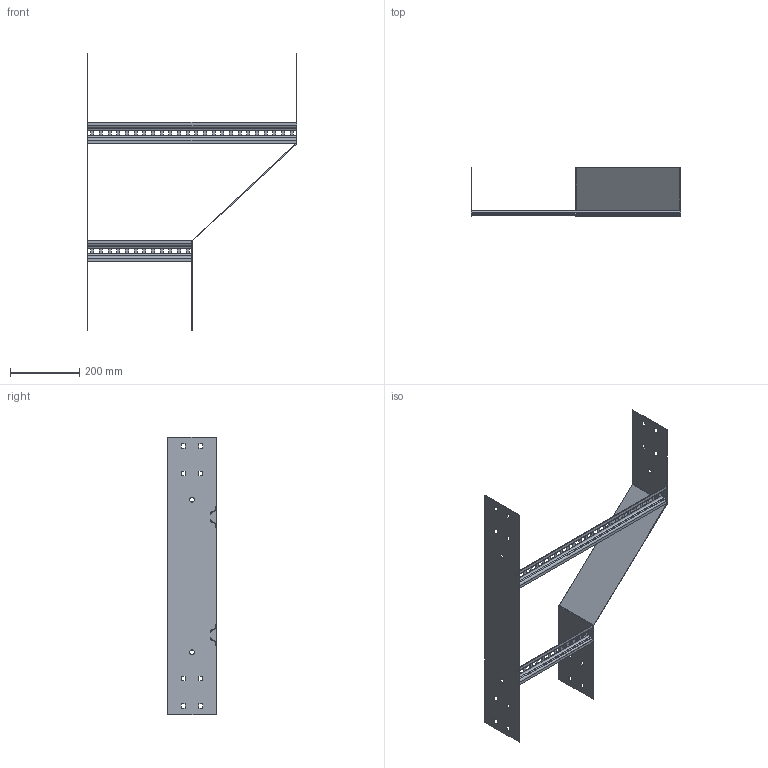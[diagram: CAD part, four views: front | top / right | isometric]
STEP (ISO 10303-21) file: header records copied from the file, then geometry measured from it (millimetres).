
FILE_DESCRIPTION (( 'STEP AP203' ), '1' );
FILE_NAME ('N20C LHR600300.STEP', '2024-08-28T22:25:28', ( '' ), ( '' ), 'SwSTEP 2.0', 'SolidWorks 2023', '' );
FILE_SCHEMA (( 'CONFIG_CONTROL_DESIGN' ));
Length unit declared in the file: millimetre
Products named in the file (5): Ladder Rung_Ladder Rung -  600mm; N20C LHR600300; N20C Tee Back Plate_800; N20C REDUCER_LHR300x600; Ladder Rung_Ladder Rung -  300mm
Assembly tree (4 placements, depth 2):
  N20C LHR600300
    N20C REDUCER_LHR300x600
    Ladder Rung_Ladder Rung -  300mm
    Ladder Rung_Ladder Rung -  600mm
    N20C Tee Back Plate_800
Bounding box: 604 x 140 x 800 mm (x, y, z)
Volume: 574645.2 mm3; surface area: 615195.9 mm2
Topology: 4 solids, 4 shells, 328 faces, 880 edges, 560 vertices
Faces by surface type: plane 300, cylinder 28
Entity records: 10719 total; most frequent: CARTESIAN_POINT 1775, ORIENTED_EDGE 1760, DIRECTION 1606, EDGE_CURVE 880, LINE 824, VECTOR 824, VERTEX_POINT 560, EDGE_LOOP 436
